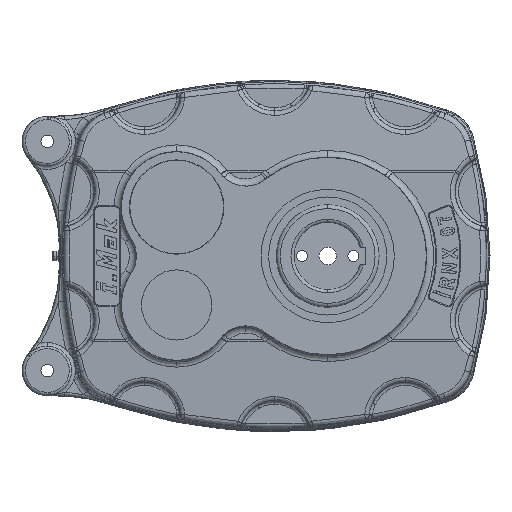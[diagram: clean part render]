
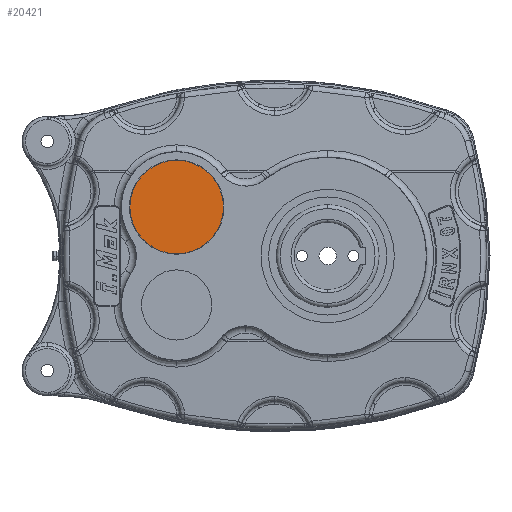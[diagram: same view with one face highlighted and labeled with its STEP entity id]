
A CAD part, left-side view. The second image highlights one B-rep face of the part: STEP entity #20421.
In plain terms, the highlighted planar face has unit normal (-1, 0, 0).
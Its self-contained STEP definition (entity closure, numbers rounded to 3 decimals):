
#2086 = DIRECTION ( 'NONE',  ( 0., -1., 0. ) ) ;
#2399 = ORIENTED_EDGE ( 'NONE', *, *, #52207, .T. ) ;
#3143 = CIRCLE ( 'NONE', #48813, 59.25 ) ;
#12574 = ORIENTED_EDGE ( 'NONE', *, *, #46867, .T. ) ;
#15262 = EDGE_LOOP ( 'NONE', ( #12574, #2399 ) ) ;
#15635 = DIRECTION ( 'NONE',  ( -1., 0., 0. ) ) ;
#16698 = CARTESIAN_POINT ( 'NONE',  ( -129., 131.949, 62. ) ) ;
#20421 = ADVANCED_FACE ( 'NONE', ( #24872 ), #20461, .F. ) ;
#20461 = PLANE ( 'NONE',  #35068 ) ;
#24872 = FACE_OUTER_BOUND ( 'NONE', #15262, .T. ) ;
#27479 = CARTESIAN_POINT ( 'NONE',  ( -129., 191.199, 62. ) ) ;
#35068 = AXIS2_PLACEMENT_3D ( 'NONE', #55250, #38278, #2086 ) ;
#35408 = VERTEX_POINT ( 'NONE', #16698 ) ;
#35702 = AXIS2_PLACEMENT_3D ( 'NONE', #27479, #49645, #54347 ) ;
#38278 = DIRECTION ( 'NONE',  ( 1., 0., 0. ) ) ;
#40823 = CARTESIAN_POINT ( 'NONE',  ( -129., 250.449, 62. ) ) ;
#45744 = VERTEX_POINT ( 'NONE', #40823 ) ;
#46599 = CARTESIAN_POINT ( 'NONE',  ( -129., 191.199, 62. ) ) ;
#46867 = EDGE_CURVE ( 'NONE', #35408, #45744, #3143, .T. ) ;
#48813 = AXIS2_PLACEMENT_3D ( 'NONE', #46599, #15635, #56258 ) ;
#49645 = DIRECTION ( 'NONE',  ( -1., 0., 0. ) ) ;
#50653 = CIRCLE ( 'NONE', #35702, 59.25 ) ;
#52207 = EDGE_CURVE ( 'NONE', #45744, #35408, #50653, .T. ) ;
#54347 = DIRECTION ( 'NONE',  ( 0., -1., 0. ) ) ;
#55250 = CARTESIAN_POINT ( 'NONE',  ( -129., 250.949, 62. ) ) ;
#56258 = DIRECTION ( 'NONE',  ( 0., -1., 0. ) ) ;
